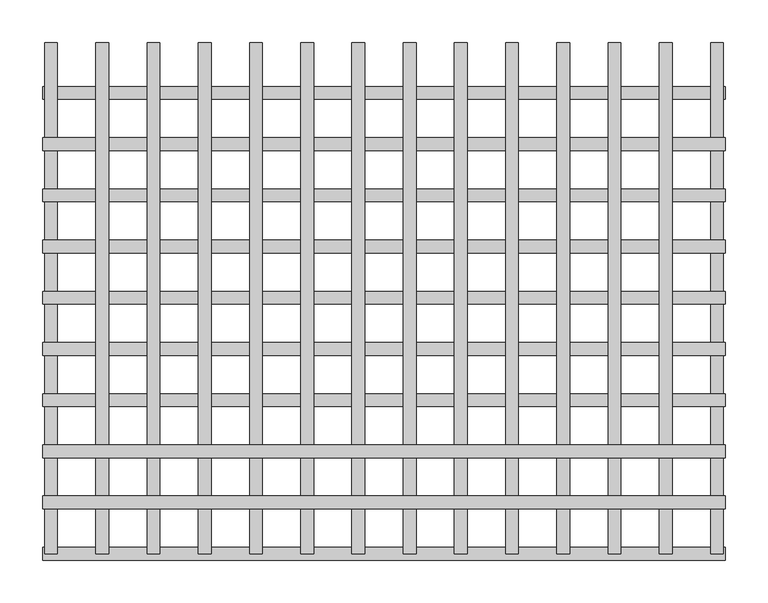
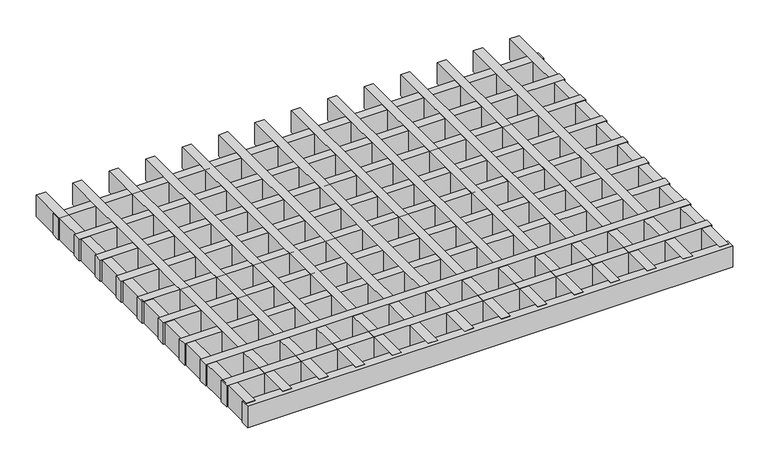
"""IFC4 building model written with IfcOpenShell, lengths in millimetres: proxy geometry, durlum_GEO_panel : durlum_GEO_15_length_cut."""

from ifc_helpers import new_model, si_unit, origin, origin_with_axes, place, context, project, spatial, polyline, outline, extrude, source, transform, mapped, element, save


def generic_models_21e3bb4c(model_context):
    return source(origin(), model_context, "Body", "SweptSolid", [
        extrude(outline(polyline([(399.75, -232.0), (399.75, -247.0), (-399.75, -247.0), (-399.75, -232.0), (399.75, -232.0)])), origin_with_axes(), (0.0, 0.0, 1.0), 37.0),
        extrude(outline(polyline([(399.75, -172.0), (399.75, -187.0), (-399.75, -187.0), (-399.75, -172.0), (399.75, -172.0)])), origin_with_axes(), (0.0, 0.0, 1.0), 37.0),
        extrude(outline(polyline([(322.5, 299.5), (337.5, 299.5), (337.5, -299.5), (322.5, -299.5), (322.5, 299.5)])), origin_with_axes(), (0.0, 0.0, 1.0), 37.0),
        extrude(outline(polyline([(262.5, 299.5), (277.5, 299.5), (277.5, -299.5), (262.5, -299.5), (262.5, 299.5)])), origin_with_axes(), (0.0, 0.0, 1.0), 37.0),
        extrude(outline(polyline([(202.5, 299.5), (217.5, 299.5), (217.5, -299.5), (202.5, -299.5), (202.5, 299.5)])), origin_with_axes(), (0.0, 0.0, 1.0), 37.0),
        extrude(outline(polyline([(142.5, 299.5), (157.5, 299.5), (157.5, -299.5), (142.5, -299.5), (142.5, 299.5)])), origin_with_axes(), (0.0, 0.0, 1.0), 37.0),
        extrude(outline(polyline([(82.5, 299.5), (97.5, 299.5), (97.5, -299.5), (82.5, -299.5), (82.5, 299.5)])), origin_with_axes(), (0.0, 0.0, 1.0), 37.0),
        extrude(outline(polyline([(22.5, 299.5), (37.5, 299.5), (37.5, -299.5), (22.5, -299.5), (22.5, 299.5)])), origin_with_axes(), (0.0, 0.0, 1.0), 37.0),
        extrude(outline(polyline([(-37.5, 299.5), (-22.5, 299.5), (-22.5, -299.5), (-37.5, -299.5), (-37.5, 299.5)])), origin_with_axes(), (0.0, 0.0, 1.0), 37.0),
        extrude(outline(polyline([(-97.5, 299.5), (-82.5, 299.5), (-82.5, -299.5), (-97.5, -299.5), (-97.5, 299.5)])), origin_with_axes(), (0.0, 0.0, 1.0), 37.0),
        extrude(outline(polyline([(-157.5, 299.5), (-142.5, 299.5), (-142.5, -299.5), (-157.5, -299.5), (-157.5, 299.5)])), origin_with_axes(), (0.0, 0.0, 1.0), 37.0),
        extrude(outline(polyline([(-217.5, 299.5), (-202.5, 299.5), (-202.5, -299.5), (-217.5, -299.5), (-217.5, 299.5)])), origin_with_axes(), (0.0, 0.0, 1.0), 37.0),
        extrude(outline(polyline([(-277.5, 299.5), (-262.5, 299.5), (-262.5, -299.5), (-277.5, -299.5), (-277.5, 299.5)])), origin_with_axes(), (0.0, 0.0, 1.0), 37.0),
        extrude(outline(polyline([(-337.5, 299.5), (-322.5, 299.5), (-322.5, -299.5), (-337.5, -299.5), (-337.5, 299.5)])), origin_with_axes(), (0.0, 0.0, 1.0), 37.0),
        extrude(outline(polyline([(399.75, -112.0), (399.75, -127.0), (-399.75, -127.0), (-399.75, -112.0), (399.75, -112.0)])), origin_with_axes(), (0.0, 0.0, 1.0), 37.0),
        extrude(outline(polyline([(399.75, -52.0), (399.75, -67.0), (-399.75, -67.0), (-399.75, -52.0), (399.75, -52.0)])), origin_with_axes(), (0.0, 0.0, 1.0), 37.0),
        extrude(outline(polyline([(399.75, 8.0), (399.75, -7.0), (-399.75, -7.0), (-399.75, 8.0), (399.75, 8.0)])), origin_with_axes(), (0.0, 0.0, 1.0), 37.0),
        extrude(outline(polyline([(399.75, 68.0), (399.75, 53.0), (-399.75, 53.0), (-399.75, 68.0), (399.75, 68.0)])), origin_with_axes(), (0.0, 0.0, 1.0), 37.0),
        extrude(outline(polyline([(399.75, 128.0), (399.75, 113.0), (-399.75, 113.0), (-399.75, 128.0), (399.75, 128.0)])), origin_with_axes(), (0.0, 0.0, 1.0), 37.0),
        extrude(outline(polyline([(399.75, 188.0), (399.75, 173.0), (-399.75, 173.0), (-399.75, 188.0), (399.75, 188.0)])), origin_with_axes(), (0.0, 0.0, 1.0), 37.0),
        extrude(outline(polyline([(382.5, 299.5), (397.5, 299.5), (397.5, -299.5), (382.5, -299.5), (382.5, 299.5)])), origin_with_axes(), (0.0, 0.0, 1.0), 37.0),
        extrude(outline(polyline([(-397.5, 299.5), (-382.5, 299.5), (-382.5, -299.5), (-397.5, -299.5), (-397.5, 299.5)])), origin_with_axes(), (0.0, 0.0, 1.0), 37.0),
        extrude(outline(polyline([(399.75, -292.0), (399.75, -307.0), (-399.75, -307.0), (-399.75, -292.0), (399.75, -292.0)])), origin_with_axes(), (0.0, 0.0, 1.0), 37.0),
        extrude(outline(polyline([(399.75, 248.0), (399.75, 233.0), (-399.75, 233.0), (-399.75, 248.0), (399.75, 248.0)])), origin_with_axes(), (0.0, 0.0, 1.0), 37.0),
    ])


if __name__ == "__main__":
    model = new_model("IFC4")
    model_context = context("Model", 3, world=origin())
    ifc_project = project(units=[si_unit("LENGTHUNIT", "METRE", prefix="MILLI")], contexts=[model_context])
    site = spatial("IfcSite", under=ifc_project)
    building = spatial("IfcBuilding", under=site)
    placement = place(None, origin())
    generic_models_shape = generic_models_21e3bb4c(model_context)
    element("IfcBuildingElementProxy", 1, Name="durlum_GEO_panel : durlum_GEO_15_length_cut", ObjectType="durlum_GEO_panel : durlum_GEO_15_length_cut", at=placement, inside=building, context=model_context, shape_type="MappedRepresentation", body=[
        mapped(generic_models_shape, transform((0.0, 0.0, 0.0), x_axis=(1.0, 0.0, 0.0), y_axis=(0.0, 1.0, 0.0), z_axis=(0.0, 0.0, 1.0))),
    ])
    save(model, "model.ifc")
